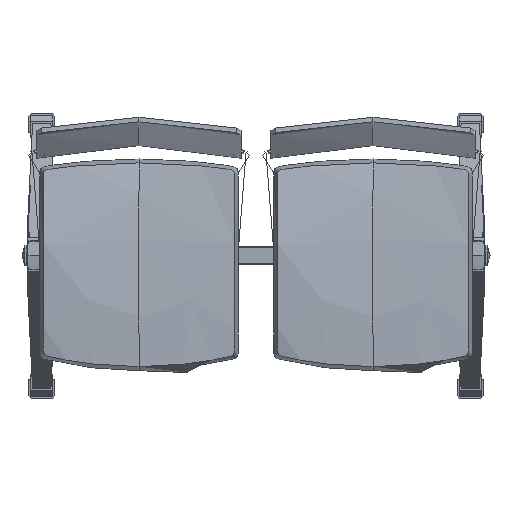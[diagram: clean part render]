
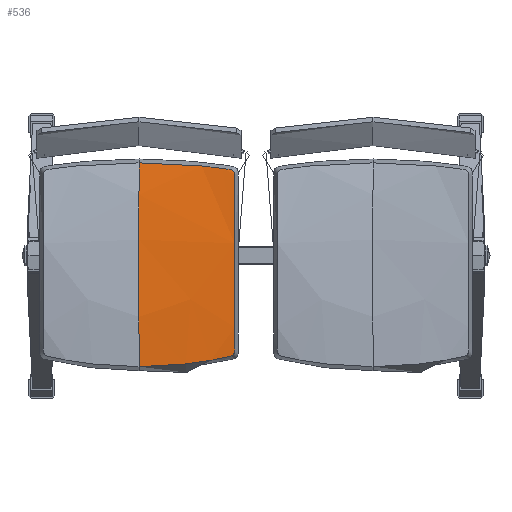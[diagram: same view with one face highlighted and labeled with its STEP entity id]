
A CAD part, top view. The second image highlights one B-rep face of the part: STEP entity #536.
In plain terms, the highlighted free-form (B-spline) face has degree [3, 3] with [6, 5] control points.
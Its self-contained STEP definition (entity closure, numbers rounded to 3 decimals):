
#223=B_SPLINE_SURFACE_WITH_KNOTS('',3,3,((#10846,#10847,#10848,#10849,#10850),
(#10851,#10852,#10853,#10854,#10855),(#10856,#10857,#10858,#10859,#10860),
(#10861,#10862,#10863,#10864,#10865),(#10866,#10867,#10868,#10869,#10870),
(#10871,#10872,#10873,#10874,#10875)),.UNSPECIFIED.,.F.,.F.,.F.,(4,1,1,
4),(4,1,4),(0.,150.405,300.811,451.216),(0.,113.023,
226.045),.UNSPECIFIED.);
#536=ADVANCED_FACE('',(#948),#223,.T.);
#948=FACE_OUTER_BOUND('',#1360,.T.);
#1360=EDGE_LOOP('',(#2727,#2728));
#2727=ORIENTED_EDGE('',*,*,#3952,.F.);
#2728=ORIENTED_EDGE('',*,*,#3955,.F.);
#3952=EDGE_CURVE('',#4854,#4853,#5998,.T.);
#3955=EDGE_CURVE('',#4853,#4854,#6001,.T.);
#4853=VERTEX_POINT('',#11466);
#4854=VERTEX_POINT('',#11467);
#5998=B_SPLINE_CURVE_WITH_KNOTS('',3,(#11474,#11475,#11476,#11477,#11478,
#11479),.UNSPECIFIED.,.F.,.F.,(4,1,1,4),(14.636,150.405,
300.811,436.736),.UNSPECIFIED.);
#6001=B_SPLINE_CURVE_WITH_KNOTS('',3,(#11550,#11551,#11552,#11553,#11554,
#11555,#11556,#11557,#11558,#11559,#11560,#11561,#11562,#11563,#11564,#11565,
#11566,#11567,#11568,#11569,#11570,#11571,#11572,#11573,#11574,#11575,#11576,
#11577,#11578,#11579,#11580,#11581,#11582,#11583,#11584,#11585,#11586,#11587,
#11588,#11589,#11590,#11591,#11592,#11593,#11594,#11595,#11596,#11597,#11598,
#11599,#11600,#11601,#11602,#11603,#11604,#11605,#11606,#11607,#11608,#11609,
#11610,#11611,#11612,#11613,#11614,#11615),.UNSPECIFIED.,.F.,.F.,(4,2,2,
2,1,1,1,2,2,2,2,2,1,1,1,2,2,2,2,2,2,2,2,2,1,1,1,2,2,2,2,2,1,1,1,2,2,2,4),
(-834.547,-732.977,-707.585,-682.192,
-634.077,-631.407,-628.738,-626.069,
-623.399,-620.73,-618.061,-615.391,
-612.722,-610.053,-607.384,-561.831,
-513.608,-489.497,-465.386,-417.164,
-368.942,-344.831,-320.72,-272.498,
-226.987,-224.275,-221.564,-218.853,
-216.141,-213.43,-210.718,-208.007,
-205.295,-202.584,-199.872,-151.938,
-126.615,-101.292,0.),.UNSPECIFIED.);
#10846=CARTESIAN_POINT('',(-32.5,-227.5,452.92));
#10847=CARTESIAN_POINT('',(-68.664,-237.419,461.436));
#10848=CARTESIAN_POINT('',(-142.418,-252.432,466.217));
#10849=CARTESIAN_POINT('',(-217.473,-257.459,466.479));
#10850=CARTESIAN_POINT('',(-255.,-257.459,466.479));
#10851=CARTESIAN_POINT('',(-32.5,-180.234,461.665));
#10852=CARTESIAN_POINT('',(-68.599,-188.252,471.09));
#10853=CARTESIAN_POINT('',(-142.323,-200.383,474.207));
#10854=CARTESIAN_POINT('',(-217.441,-204.444,473.909));
#10855=CARTESIAN_POINT('',(-255.,-204.444,473.909));
#10856=CARTESIAN_POINT('',(-32.5,-85.677,465.522));
#10857=CARTESIAN_POINT('',(-68.469,-89.935,472.649));
#10858=CARTESIAN_POINT('',(-142.133,-96.362,468.263));
#10859=CARTESIAN_POINT('',(-217.378,-98.511,466.788));
#10860=CARTESIAN_POINT('',(-255.,-98.511,466.788));
#10861=CARTESIAN_POINT('',(-32.5,56.117,460.406));
#10862=CARTESIAN_POINT('',(-68.274,57.366,463.741));
#10863=CARTESIAN_POINT('',(-141.849,59.293,453.584));
#10864=CARTESIAN_POINT('',(-217.283,59.944,450.172));
#10865=CARTESIAN_POINT('',(-255.,59.944,450.172));
#10866=CARTESIAN_POINT('',(-32.5,150.418,449.736));
#10867=CARTESIAN_POINT('',(-68.144,155.229,450.319));
#10868=CARTESIAN_POINT('',(-141.659,162.56,439.981));
#10869=CARTESIAN_POINT('',(-217.22,165.024,435.165));
#10870=CARTESIAN_POINT('',(-255.,165.024,435.165));
#10871=CARTESIAN_POINT('',(-32.5,197.5,437.588));
#10872=CARTESIAN_POINT('',(-68.08,204.063,434.741));
#10873=CARTESIAN_POINT('',(-141.564,214.054,422.229));
#10874=CARTESIAN_POINT('',(-217.188,217.409,416.683));
#10875=CARTESIAN_POINT('',(-255.,217.409,416.683));
#11466=CARTESIAN_POINT('',(-255.,202.275,421.725));
#11467=CARTESIAN_POINT('',(-255.,-241.984,468.345));
#11474=CARTESIAN_POINT('',(-255.,-241.984,468.345));
#11475=CARTESIAN_POINT('',(-255.,-194.136,473.206));
#11476=CARTESIAN_POINT('',(-255.,-93.372,466.249));
#11477=CARTESIAN_POINT('',(-255.,54.859,450.705));
#11478=CARTESIAN_POINT('',(-255.,154.906,436.601));
#11479=CARTESIAN_POINT('',(-255.,202.275,421.725));
#11550=CARTESIAN_POINT('',(-255.,202.275,421.725));
#11551=CARTESIAN_POINT('',(-221.572,202.274,421.725));
#11552=CARTESIAN_POINT('',(-188.167,201.067,423.808));
#11553=CARTESIAN_POINT('',(-146.727,198.045,428.155));
#11554=CARTESIAN_POINT('',(-138.454,197.365,429.119));
#11555=CARTESIAN_POINT('',(-121.936,195.851,431.169));
#11556=CARTESIAN_POINT('',(-113.697,195.018,432.245));
#11557=CARTESIAN_POINT('',(-89.821,192.377,435.343));
#11558=CARTESIAN_POINT('',(-73.485,190.261,437.451));
#11559=CARTESIAN_POINT('',(-55.962,187.674,439.137));
#11560=CARTESIAN_POINT('',(-54.051,187.297,439.337));
#11561=CARTESIAN_POINT('',(-52.697,186.803,439.534));
#11562=CARTESIAN_POINT('',(-51.446,186.216,439.745));
#11563=CARTESIAN_POINT('',(-50.842,185.865,439.863));
#11564=CARTESIAN_POINT('',(-49.727,185.048,440.12));
#11565=CARTESIAN_POINT('',(-49.215,184.581,440.26));
#11566=CARTESIAN_POINT('',(-48.309,183.546,440.555));
#11567=CARTESIAN_POINT('',(-47.916,182.978,440.71));
#11568=CARTESIAN_POINT('',(-47.263,181.775,441.029));
#11569=CARTESIAN_POINT('',(-47.001,181.137,441.193));
#11570=CARTESIAN_POINT('',(-46.601,179.838,441.519));
#11571=CARTESIAN_POINT('',(-46.311,178.451,441.857));
#11572=CARTESIAN_POINT('',(-46.224,176.557,442.302));
#11573=CARTESIAN_POINT('',(-46.258,159.822,446.126));
#11574=CARTESIAN_POINT('',(-46.251,144.125,449.006));
#11575=CARTESIAN_POINT('',(-46.27,113.211,453.722));
#11576=CARTESIAN_POINT('',(-46.276,97.267,455.629));
#11577=CARTESIAN_POINT('',(-46.288,73.289,458.027));
#11578=CARTESIAN_POINT('',(-46.291,65.291,458.748));
#11579=CARTESIAN_POINT('',(-46.299,49.285,460.088));
#11580=CARTESIAN_POINT('',(-46.303,41.276,460.707));
#11581=CARTESIAN_POINT('',(-46.314,17.243,462.414));
#11582=CARTESIAN_POINT('',(-46.322,1.206,463.35));
#11583=CARTESIAN_POINT('',(-46.337,-30.887,464.815));
#11584=CARTESIAN_POINT('',(-46.344,-46.942,465.344));
#11585=CARTESIAN_POINT('',(-46.356,-71.031,465.833));
#11586=CARTESIAN_POINT('',(-46.359,-79.063,465.945));
#11587=CARTESIAN_POINT('',(-46.367,-95.124,466.068));
#11588=CARTESIAN_POINT('',(-46.371,-103.157,466.078));
#11589=CARTESIAN_POINT('',(-46.382,-127.252,465.877));
#11590=CARTESIAN_POINT('',(-46.391,-143.304,465.433));
#11591=CARTESIAN_POINT('',(-46.401,-174.505,463.545));
#11592=CARTESIAN_POINT('',(-46.422,-190.395,462.101));
#11593=CARTESIAN_POINT('',(-46.404,-207.426,459.773));
#11594=CARTESIAN_POINT('',(-46.494,-209.362,459.519));
#11595=CARTESIAN_POINT('',(-46.782,-210.795,459.378));
#11596=CARTESIAN_POINT('',(-47.174,-212.142,459.27));
#11597=CARTESIAN_POINT('',(-47.43,-212.807,459.23));
#11598=CARTESIAN_POINT('',(-48.065,-214.072,459.185));
#11599=CARTESIAN_POINT('',(-48.445,-214.674,459.18));
#11600=CARTESIAN_POINT('',(-49.32,-215.787,459.206));
#11601=CARTESIAN_POINT('',(-49.815,-216.298,459.238));
#11602=CARTESIAN_POINT('',(-50.893,-217.21,459.334));
#11603=CARTESIAN_POINT('',(-51.478,-217.613,459.4));
#11604=CARTESIAN_POINT('',(-52.694,-218.306,459.554));
#11605=CARTESIAN_POINT('',(-54.018,-218.912,459.74));
#11606=CARTESIAN_POINT('',(-55.882,-219.435,460.046));
#11607=CARTESIAN_POINT('',(-73.089,-223.338,462.888));
#11608=CARTESIAN_POINT('',(-89.35,-226.584,464.503));
#11609=CARTESIAN_POINT('',(-113.22,-230.666,466.076));
#11610=CARTESIAN_POINT('',(-121.482,-231.96,466.471));
#11611=CARTESIAN_POINT('',(-138.061,-234.316,467.095));
#11612=CARTESIAN_POINT('',(-146.368,-235.377,467.33));
#11613=CARTESIAN_POINT('',(-187.978,-240.093,468.307));
#11614=CARTESIAN_POINT('',(-221.491,-241.984,468.344));
#11615=CARTESIAN_POINT('',(-255.,-241.984,468.345));
